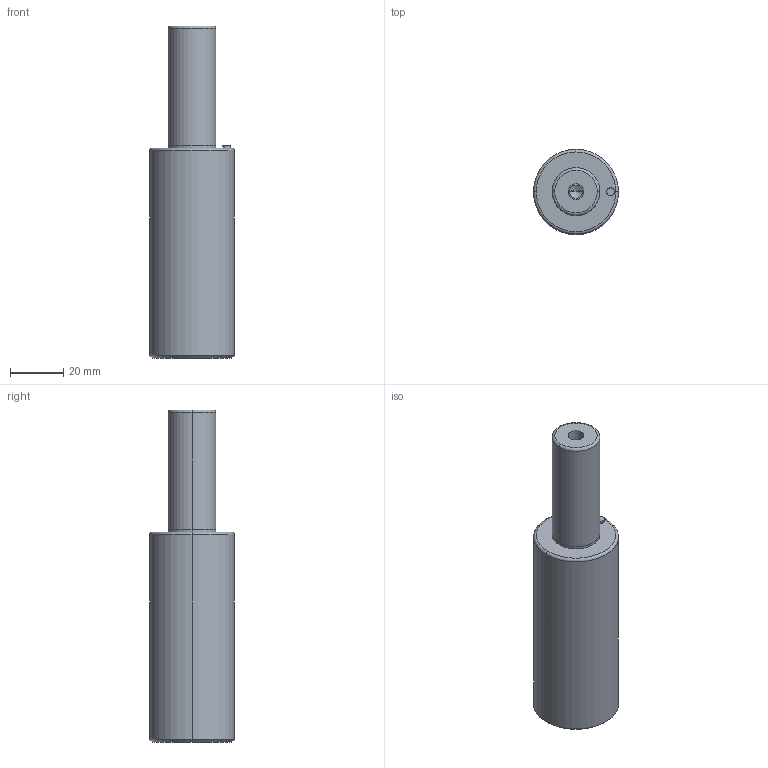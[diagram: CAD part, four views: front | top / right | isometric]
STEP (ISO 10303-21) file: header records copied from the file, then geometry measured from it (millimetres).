
FILE_DESCRIPTION(/* description */ (''),/* implementation_level */ '2;1');
FILE_NAME(/* name */ '3d_gsc32-45_03825_r00.stp',/* time_stamp */ '2011-01-10T14:15:22+09:00',/* author */ ('MISUMI'),/* organization */ (''),/* preprocessor_version */ 'ST-DEVELOPER v11',/* originating_system */ 'UGS - NX 5.0',/* authorisation */ '');
FILE_SCHEMA (('CONFIG_CONTROL_DESIGN'));
Length unit declared in the file: millimetre
Products named in the file (1): 3d_gsc32-45_03825_r00
Bounding box: 32 x 32 x 125 mm (x, y, z)
Volume: 74576.8 mm3; surface area: 12434.5 mm2
Topology: 1 solids, 1 shells, 32 faces, 66 edges, 38 vertices
Faces by surface type: cylinder 16, cone 6, plane 6, torus 4
Entity records: 912 total; most frequent: DIRECTION 168, CARTESIAN_POINT 133, ORIENTED_EDGE 124, AXIS2_PLACEMENT_3D 73, EDGE_CURVE 62, CIRCLE 40, EDGE_LOOP 38, VERTEX_POINT 38
